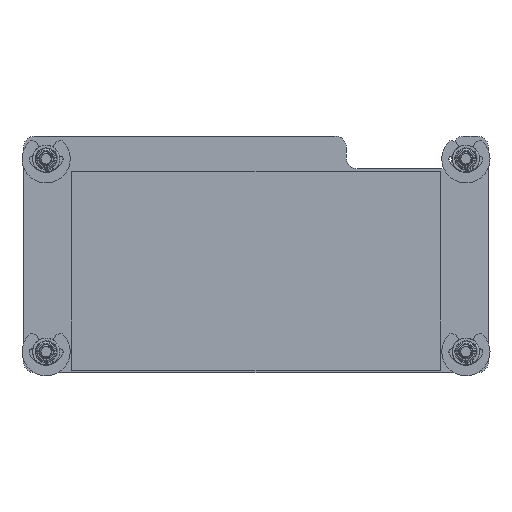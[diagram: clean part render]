
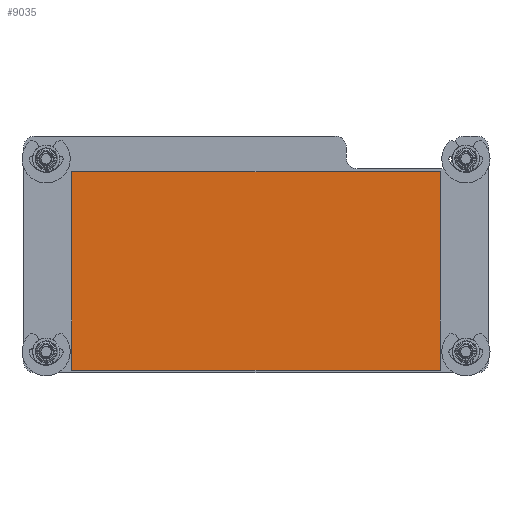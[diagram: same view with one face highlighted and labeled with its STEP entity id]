
A CAD part, front view. The second image highlights one B-rep face of the part: STEP entity #9035.
In plain terms, the highlighted planar face has unit normal (0, -1, 0).
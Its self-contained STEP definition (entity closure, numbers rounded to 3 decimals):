
#2733 = LINE ( 'NONE', #20474, #9594 ) ;
#3290 = CARTESIAN_POINT ( 'NONE',  ( 32.5, 0., -17.5 ) ) ;
#3675 = EDGE_CURVE ( 'NONE', #12032, #65243, #31110, .T. ) ;
#8803 = VECTOR ( 'NONE', #9206, 1000. ) ;
#9035 = ADVANCED_FACE ( 'NONE', ( #63581 ), #45797, .F. ) ;
#9206 = DIRECTION ( 'NONE',  ( -1., 0., 0. ) ) ;
#9594 = VECTOR ( 'NONE', #30509, 1000. ) ;
#12032 = VERTEX_POINT ( 'NONE', #45673 ) ;
#13206 = DIRECTION ( 'NONE',  ( 0., 1., 0. ) ) ;
#13396 = ORIENTED_EDGE ( 'NONE', *, *, #3675, .F. ) ;
#14427 = DIRECTION ( 'NONE',  ( 0., 0., -1. ) ) ;
#20474 = CARTESIAN_POINT ( 'NONE',  ( -32.5, 0., 17.5 ) ) ;
#22335 = VERTEX_POINT ( 'NONE', #44541 ) ;
#23503 = EDGE_LOOP ( 'NONE', ( #64919, #55370, #13396, #72035 ) ) ;
#26608 = LINE ( 'NONE', #37734, #66849 ) ;
#27321 = LINE ( 'NONE', #3290, #8803 ) ;
#30509 = DIRECTION ( 'NONE',  ( 1., 0., 0. ) ) ;
#31110 = LINE ( 'NONE', #54763, #46909 ) ;
#31364 = VERTEX_POINT ( 'NONE', #35216 ) ;
#35216 = CARTESIAN_POINT ( 'NONE',  ( -32.5, 0., -17.5 ) ) ;
#36162 = CARTESIAN_POINT ( 'NONE',  ( 0., 0., 0. ) ) ;
#37734 = CARTESIAN_POINT ( 'NONE',  ( -32.5, 0., -17.5 ) ) ;
#42726 = EDGE_CURVE ( 'NONE', #65243, #31364, #27321, .T. ) ;
#43870 = EDGE_CURVE ( 'NONE', #31364, #22335, #26608, .T. ) ;
#44541 = CARTESIAN_POINT ( 'NONE',  ( -32.5, 0., 17.5 ) ) ;
#45140 = AXIS2_PLACEMENT_3D ( 'NONE', #36162, #13206, #52067 ) ;
#45673 = CARTESIAN_POINT ( 'NONE',  ( 32.5, 0., 17.5 ) ) ;
#45797 = PLANE ( 'NONE',  #45140 ) ;
#46909 = VECTOR ( 'NONE', #14427, 1000. ) ;
#52067 = DIRECTION ( 'NONE',  ( 0., 0., 1. ) ) ;
#54763 = CARTESIAN_POINT ( 'NONE',  ( 32.5, 0., 17.5 ) ) ;
#55370 = ORIENTED_EDGE ( 'NONE', *, *, #42726, .F. ) ;
#62739 = EDGE_CURVE ( 'NONE', #22335, #12032, #2733, .T. ) ;
#63581 = FACE_OUTER_BOUND ( 'NONE', #23503, .T. ) ;
#64919 = ORIENTED_EDGE ( 'NONE', *, *, #43870, .F. ) ;
#65243 = VERTEX_POINT ( 'NONE', #69154 ) ;
#66849 = VECTOR ( 'NONE', #66984, 1000. ) ;
#66984 = DIRECTION ( 'NONE',  ( 0., 0., 1. ) ) ;
#69154 = CARTESIAN_POINT ( 'NONE',  ( 32.5, 0., -17.5 ) ) ;
#72035 = ORIENTED_EDGE ( 'NONE', *, *, #62739, .F. ) ;
